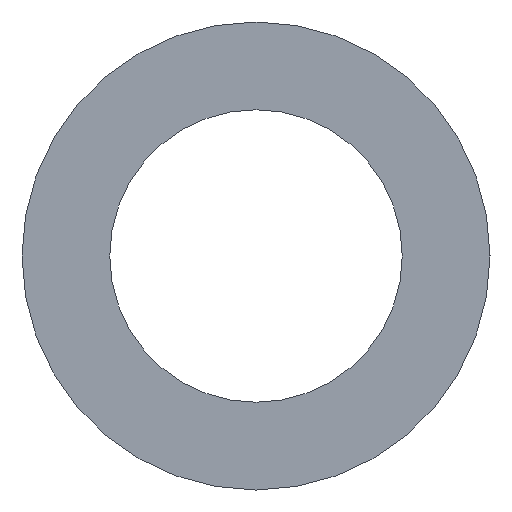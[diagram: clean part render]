
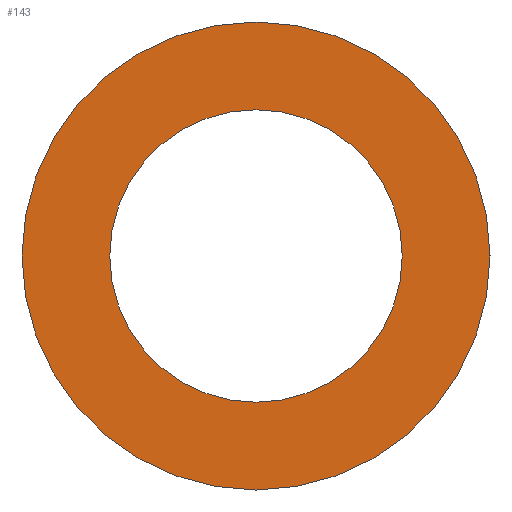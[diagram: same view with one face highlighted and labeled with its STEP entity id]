
A CAD part, left-side view. The second image highlights one B-rep face of the part: STEP entity #143.
In plain terms, the highlighted planar face has unit normal (-1, 0, 0).
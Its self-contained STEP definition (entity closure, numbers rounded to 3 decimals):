
#20=PLANE('',#174);
#32=ORIENTED_EDGE('',*,*,#56,.T.);
#33=ORIENTED_EDGE('',*,*,#55,.F.);
#55=EDGE_CURVE('',#67,#67,#79,.T.);
#56=EDGE_CURVE('',#68,#68,#80,.T.);
#67=VERTEX_POINT('',#254);
#68=VERTEX_POINT('',#257);
#79=CIRCLE('',#173,16.);
#80=CIRCLE('',#175,10.);
#92=EDGE_LOOP('',(#32));
#93=EDGE_LOOP('',(#33));
#116=FACE_BOUND('',#92,.T.);
#117=FACE_BOUND('',#93,.T.);
#143=ADVANCED_FACE('',(#116,#117),#20,.F.);
#173=AXIS2_PLACEMENT_3D('',#253,#207,#208);
#174=AXIS2_PLACEMENT_3D('',#255,#209,#210);
#175=AXIS2_PLACEMENT_3D('',#256,#211,#212);
#207=DIRECTION('',(1.,0.,0.));
#208=DIRECTION('',(0.,0.,-1.));
#209=DIRECTION('',(1.,0.,0.));
#210=DIRECTION('',(0.,0.,-1.));
#211=DIRECTION('',(1.,0.,0.));
#212=DIRECTION('',(0.,0.,-1.));
#253=CARTESIAN_POINT('',(-40.,0.,0.));
#254=CARTESIAN_POINT('',(-40.,0.,-16.));
#255=CARTESIAN_POINT('',(-40.,0.,0.));
#256=CARTESIAN_POINT('',(-40.,0.,0.));
#257=CARTESIAN_POINT('',(-40.,0.,-10.));
